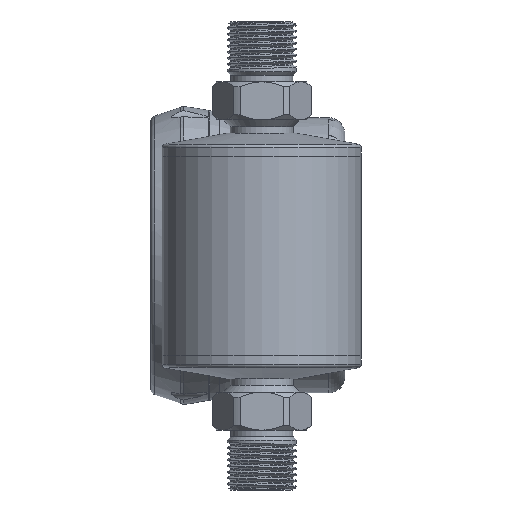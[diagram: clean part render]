
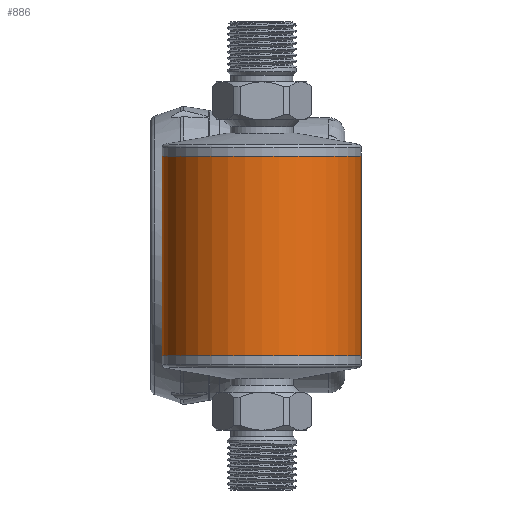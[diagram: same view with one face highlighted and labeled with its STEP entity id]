
A CAD part, front view. The second image highlights one B-rep face of the part: STEP entity #886.
In plain terms, the highlighted cylindrical face has radius 30 mm (diameter 60 mm), a full revolution.
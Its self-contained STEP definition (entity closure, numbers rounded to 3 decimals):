
#67=LINE('',#5437,#146);
#68=LINE('',#5441,#147);
#146=VECTOR('',#4376,1.);
#147=VECTOR('',#4379,1.);
#226=B_SPLINE_CURVE_WITH_KNOTS('',3,(#5443,#5444,#5445,#5446,#5447,#5448,
#5449,#5450,#5451,#5452,#5453,#5454),.UNSPECIFIED.,.F.,.F.,(4,2,2,2,2,4),
(0.,0.25,0.375,0.5,0.75,1.),.UNSPECIFIED.);
#227=B_SPLINE_CURVE_WITH_KNOTS('',3,(#5456,#5457,#5458,#5459,#5460,#5461,
#5462,#5463,#5464,#5465),.UNSPECIFIED.,.F.,.F.,(4,2,2,2,4),(0.,0.25,0.5,
0.75,1.),.UNSPECIFIED.);
#541=CYLINDRICAL_SURFACE('',#3862,30.);
#886=ADVANCED_FACE('',(#1197,#1198,#1199),#541,.T.);
#1197=FACE_BOUND('',#1371,.T.);
#1198=FACE_BOUND('',#1372,.T.);
#1199=FACE_BOUND('',#1373,.T.);
#1371=EDGE_LOOP('',(#1722,#1723,#1724,#1725));
#1372=EDGE_LOOP('',(#1726));
#1373=EDGE_LOOP('',(#1727));
#1722=ORIENTED_EDGE('',*,*,#3088,.F.);
#1723=ORIENTED_EDGE('',*,*,#3087,.T.);
#1724=ORIENTED_EDGE('',*,*,#3089,.T.);
#1725=ORIENTED_EDGE('',*,*,#3085,.T.);
#1726=ORIENTED_EDGE('',*,*,#3090,.F.);
#1727=ORIENTED_EDGE('',*,*,#3091,.T.);
#2726=VERTEX_POINT('',#5435);
#2727=VERTEX_POINT('',#5436);
#2728=VERTEX_POINT('',#5438);
#2729=VERTEX_POINT('',#5440);
#2730=VERTEX_POINT('',#5467);
#2731=VERTEX_POINT('',#5469);
#3085=EDGE_CURVE('',#2728,#2727,#67,.T.);
#3087=EDGE_CURVE('',#2726,#2729,#68,.T.);
#3088=EDGE_CURVE('',#2726,#2727,#226,.T.);
#3089=EDGE_CURVE('',#2729,#2728,#227,.T.);
#3090=EDGE_CURVE('',#2730,#2730,#3596,.T.);
#3091=EDGE_CURVE('',#2731,#2731,#3597,.T.);
#3596=CIRCLE('',#3860,30.);
#3597=CIRCLE('',#3861,30.);
#3860=AXIS2_PLACEMENT_3D('',#5466,#4384,#4385);
#3861=AXIS2_PLACEMENT_3D('',#5468,#4386,#4387);
#3862=AXIS2_PLACEMENT_3D('',#5470,#4388,#4389);
#4376=DIRECTION('',(0.,0.,1.));
#4379=DIRECTION('',(0.,0.,-1.));
#4384=DIRECTION('',(0.,0.,1.));
#4385=DIRECTION('',(1.,0.,0.));
#4386=DIRECTION('',(0.,0.,1.));
#4387=DIRECTION('',(1.,0.,0.));
#4388=DIRECTION('',(0.,0.,-1.));
#4389=DIRECTION('',(1.,0.,0.));
#5435=CARTESIAN_POINT('',(42.23,26.,4.031));
#5436=CARTESIAN_POINT('',(63.77,26.,4.031));
#5437=CARTESIAN_POINT('',(63.77,26.,-4.031));
#5438=CARTESIAN_POINT('',(63.77,26.,-4.031));
#5440=CARTESIAN_POINT('',(42.23,26.,-4.031));
#5441=CARTESIAN_POINT('',(42.23,26.,17.));
#5443=CARTESIAN_POINT('',(42.23,26.,4.031));
#5444=CARTESIAN_POINT('',(42.887,26.253,6.508));
#5445=CARTESIAN_POINT('',(44.151,26.729,8.81));
#5446=CARTESIAN_POINT('',(46.943,27.398,11.457));
#5447=CARTESIAN_POINT('',(48.003,27.605,12.184));
#5448=CARTESIAN_POINT('',(50.39,27.91,13.217));
#5449=CARTESIAN_POINT('',(51.687,27.999,13.497));
#5450=CARTESIAN_POINT('',(55.568,28.002,13.505));
#5451=CARTESIAN_POINT('',(58.096,27.626,12.357));
#5452=CARTESIAN_POINT('',(61.827,26.736,8.842));
#5453=CARTESIAN_POINT('',(63.106,26.256,6.536));
#5454=CARTESIAN_POINT('',(63.77,26.,4.031));
#5456=CARTESIAN_POINT('',(42.23,26.,-4.031));
#5457=CARTESIAN_POINT('',(42.889,26.254,-6.518));
#5458=CARTESIAN_POINT('',(44.16,26.732,-8.821));
#5459=CARTESIAN_POINT('',(47.875,27.621,-12.338));
#5460=CARTESIAN_POINT('',(50.349,27.997,-13.492));
#5461=CARTESIAN_POINT('',(55.594,28.003,-13.508));
#5462=CARTESIAN_POINT('',(58.095,27.626,-12.355));
#5463=CARTESIAN_POINT('',(61.815,26.739,-8.855));
#5464=CARTESIAN_POINT('',(63.11,26.254,-6.522));
#5465=CARTESIAN_POINT('',(63.77,26.,-4.031));
#5466=CARTESIAN_POINT('',(53.,-2.,30.));
#5467=CARTESIAN_POINT('',(83.,-2.,30.));
#5468=CARTESIAN_POINT('',(53.,-2.,-30.));
#5469=CARTESIAN_POINT('',(83.,-2.,-30.));
#5470=CARTESIAN_POINT('',(53.,-2.,17.));
